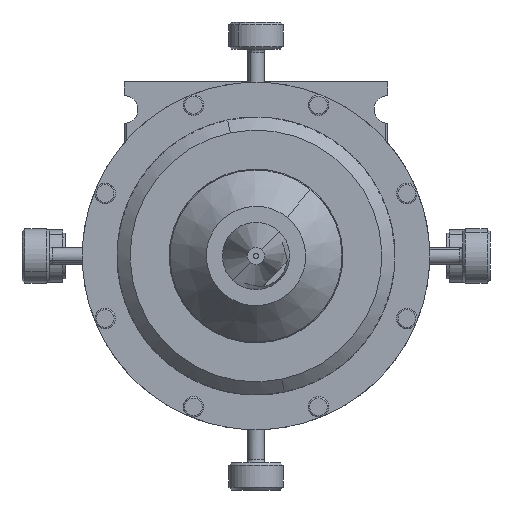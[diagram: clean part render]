
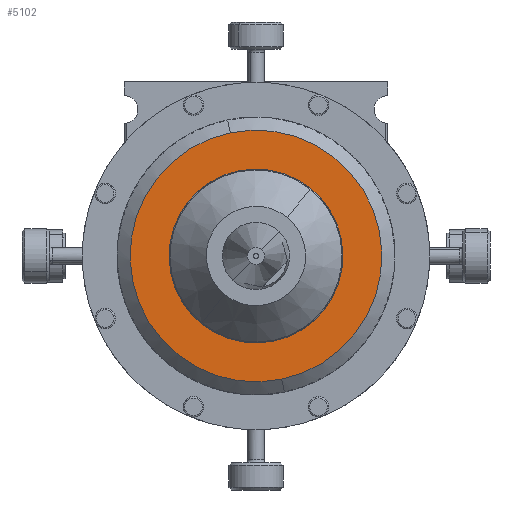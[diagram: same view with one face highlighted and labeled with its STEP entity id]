
A CAD part, front view. The second image highlights one B-rep face of the part: STEP entity #5102.
In plain terms, the highlighted planar face has unit normal (0, -1, 0).
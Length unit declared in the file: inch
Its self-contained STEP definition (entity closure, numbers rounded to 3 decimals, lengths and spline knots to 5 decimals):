
#1631 = ORIENTED_EDGE ( 'NONE', *, *, #36314, .F. ) ;
#4910 = CARTESIAN_POINT ( 'NONE',  ( -0.49299, 1.9325, 0.38417 ) ) ;
#5102 = ADVANCED_FACE ( 'Defeatured_0_184', ( #40715, #24873 ), #28137, .T. ) ;
#5800 = DIRECTION ( 'NONE',  ( -0.204, 0., 0.979 ) ) ;
#7681 = EDGE_LOOP ( 'NONE', ( #1631, #27123 ) ) ;
#7839 = VERTEX_POINT ( 'NONE', #31666 ) ;
#9045 = CARTESIAN_POINT ( 'NONE',  ( 0., 1.9325, 0. ) ) ;
#9107 = AXIS2_PLACEMENT_3D ( 'NONE', #20277, #16317, #5800 ) ;
#10123 = VERTEX_POINT ( 'NONE', #4910 ) ;
#10132 = DIRECTION ( 'NONE',  ( 0., -1., 0. ) ) ;
#10417 = AXIS2_PLACEMENT_3D ( 'NONE', #38477, #20453, #38780 ) ;
#10936 = CARTESIAN_POINT ( 'NONE',  ( 0.49299, 1.9325, -0.38417 ) ) ;
#10980 = CIRCLE ( 'NONE', #10417, 0.625 ) ;
#11549 = EDGE_CURVE ( 'Defeatured_0_184+Defeatured_0_185+Defeatured_0_185+Defeatured_0_185', #12031, #7839, #41136, .T. ) ;
#11908 = CIRCLE ( 'NONE', #44090, 0.90625 ) ;
#12031 = VERTEX_POINT ( 'NONE', #17133 ) ;
#16317 = DIRECTION ( 'NONE',  ( 0., -1., 0. ) ) ;
#17133 = CARTESIAN_POINT ( 'NONE',  ( 0.18511, 1.9325, -0.88714 ) ) ;
#17341 = EDGE_LOOP ( 'NONE', ( #21326, #36483 ) ) ;
#19914 = DIRECTION ( 'NONE',  ( -0.204, 0., 0.979 ) ) ;
#20026 = EDGE_CURVE ( 'Defeatured_0_1123+Defeatured_0_184+Defeatured_0_184+Defeatured_0_184', #42491, #10123, #37051, .T. ) ;
#20277 = CARTESIAN_POINT ( 'NONE',  ( 0., 1.9325, 0. ) ) ;
#20453 = DIRECTION ( 'NONE',  ( 0., -1., 0. ) ) ;
#21326 = ORIENTED_EDGE ( 'NONE', *, *, #11549, .T. ) ;
#22445 = AXIS2_PLACEMENT_3D ( 'NONE', #35717, #28621, #43316 ) ;
#24873 = FACE_OUTER_BOUND ( 'NONE', #17341, .T. ) ;
#27123 = ORIENTED_EDGE ( 'NONE', *, *, #20026, .F. ) ;
#28137 = PLANE ( 'NONE',  #36292 ) ;
#28621 = DIRECTION ( 'NONE',  ( 0., -1., 0. ) ) ;
#30851 = DIRECTION ( 'NONE',  ( 0., -1., 0. ) ) ;
#31666 = CARTESIAN_POINT ( 'NONE',  ( -0.18511, 1.9325, 0.88714 ) ) ;
#31787 = CARTESIAN_POINT ( 'NONE',  ( -0.88714, 1.9325, -0.18511 ) ) ;
#35717 = CARTESIAN_POINT ( 'NONE',  ( 0., 1.9325, 0. ) ) ;
#36292 = AXIS2_PLACEMENT_3D ( 'NONE', #31787, #10132, #38735 ) ;
#36314 = EDGE_CURVE ( 'Defeatured_0_1123+Defeatured_0_184+Defeatured_0_184+Defeatured_0_184', #10123, #42491, #10980, .T. ) ;
#36483 = ORIENTED_EDGE ( 'NONE', *, *, #39005, .T. ) ;
#37051 = CIRCLE ( 'NONE', #22445, 0.625 ) ;
#38477 = CARTESIAN_POINT ( 'NONE',  ( 0., 1.9325, 0. ) ) ;
#38735 = DIRECTION ( 'NONE',  ( -0.204, 0., 0.979 ) ) ;
#38780 = DIRECTION ( 'NONE',  ( 0., 0., -1. ) ) ;
#39005 = EDGE_CURVE ( 'Defeatured_0_184+Defeatured_0_185+Defeatured_0_185+Defeatured_0_185', #7839, #12031, #11908, .T. ) ;
#40715 = FACE_BOUND ( 'NONE', #7681, .T. ) ;
#41136 = CIRCLE ( 'NONE', #9107, 0.90625 ) ;
#42491 = VERTEX_POINT ( 'NONE', #10936 ) ;
#43316 = DIRECTION ( 'NONE',  ( 0., 0., -1. ) ) ;
#44090 = AXIS2_PLACEMENT_3D ( 'NONE', #9045, #30851, #19914 ) ;
